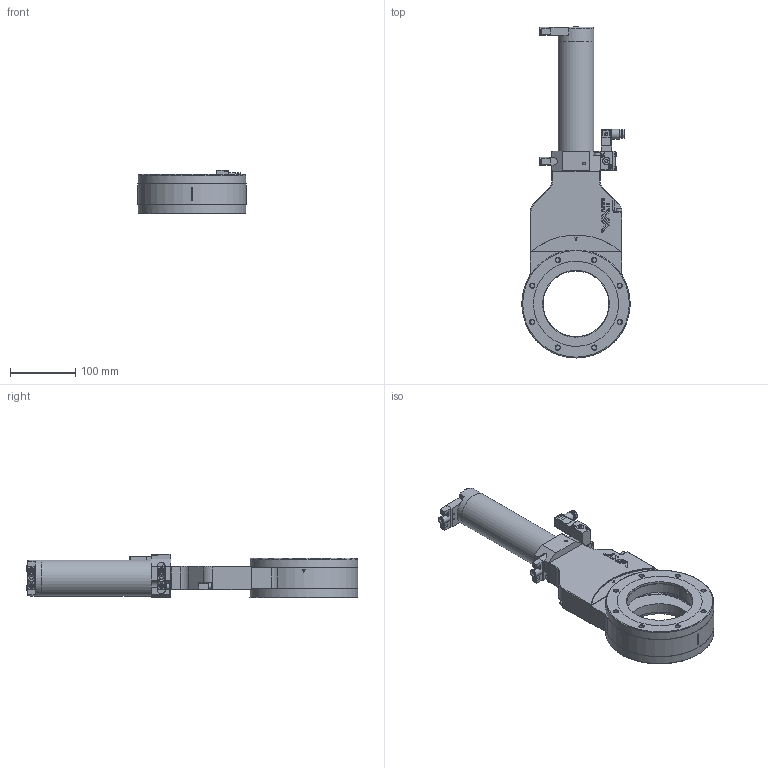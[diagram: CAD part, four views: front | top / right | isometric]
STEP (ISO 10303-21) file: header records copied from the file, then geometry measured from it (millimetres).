
FILE_DESCRIPTION(/* description */ (''),/* implementation_level */ '2;1');
FILE_NAME(/* name */ '1132663776_203.stp',/* time_stamp */ '2012-08-30T14:46:39+02:00',/* author */ (''),/* organization */ (''),/* preprocessor_version */ 'ST-DEVELOPER v11',/* originating_system */ 'SIEMENS PLM Software NX 7.5',/* authorisation */ '');
FILE_SCHEMA (('AP203_CONFIGURATION_CONTROLLED_3D_DESIGN_OF_MECHANICAL_PARTS_AND_ASSEMBLIES_MIM_LF'));
Length unit declared in the file: millimetre
Products named in the file (49): N-8406-013_3.2; N-8406-013_2.1; 467882; 437235; 73662-01.1; 202839_1.2; N-6121-039.1; N-6099-417.1; N-7557-016_1.1; N-7557-018.1; N-7557-016_2.1; N-6024-524.1; N-5018-005.1; 77379-01.1; T-9001-055.1; N-6016-478.2; 92838-01_3.2; 80477-01.1; N-7100-005_2.1; 92838-01_4.2; 80478-01.1; N-6195-007.2; 93115-01.1; 87105-01.1; N-6121-027.2; 251093.3; n-6134-407; 251289.1; 313018.1; N-6005-478.1; 236270.2; 80829-01.1; 246014.7; 245959.8; N-5100-153.1; 224795.1; N-5100-113.1; N-6005-452.1; N-6005-459.1; N-6005-466.1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
Assembly tree (70 placements, depth 5):
  254460.16
    N-6005-466.1  x2
    N-6005-459.1
    N-6005-452.1
    251092.4
      251093.3
      N-6121-027.2  x2
    N-5100-113.1  x2
    87090-R1.22_NX-ARRAGMNTunbetaetigt Hub 0mm (mit Feder)
      87105-01.1
      93115-01.1
      N-6195-007.2
      80478-01.1
      92838-01_4.2
      N-7100-005_2.1
      80477-01.1
    224795.1  x2
    87090-R1.22_NX-ARRAGMNTbetaetigt Hub 5mm max (mit Feder)
      87105-01.1
      93115-01.1
      N-6195-007.2
      80478-01.1
      N-7100-005_2.1
      80477-01.1
      92838-01_3.2
    78855-R1.9_NX-ARRAGMNTEXPLOSION  x2
      N-6016-478.2
      T-9001-055.1
      78856-R1.3
        N-6099-417.1  x2
        N-6121-039.1
        202839_1.2
        73662-01.1
        N-8406-013_1_1.4_NX-ARRAGMNTZUSAMMENST1
          N-8406-013_2.1
          202839_1.2
          N-8406-013_3.2
      77379-01.1
    N-5100-153.1
    94800-r1.7_NX-ARRAGMNTKONFIG1
      N-7557-016_3.1_MODELNX-ARRAGMNTArrangement 1
        437235
        467882
      N-5018-005.1  x2
      N-6024-524.1  x6
      N-7557-016_2.1
      N-7557-018.1
      N-7557-016_1.1
    245959.8
    246014.7
    80829-01.1
    236270.2
    N-6005-478.1
    313018.1  x2
    251289.1
    n-6134-407  x2
Bounding box: 165.6 x 507.7 x 66.3 mm (x, y, z)
Volume: 1249527.8 mm3; surface area: 326847.1 mm2
Topology: 87 solids, 87 shells, 2462 faces, 6048 edges, 3897 vertices
Faces by surface type: plane 1428, cylinder 611, cone 138, bspline 102, torus 80, extrusion 80, sphere 21, revolution 2
Full cylindrical faces by diameter (mm): 1.4 x4, 1.5 x4, 1.875 x2, 2 x5, 2.115 x8, 2.3 x2, 2.475 x6, 2.5 x8, 2.56 x2, 2.575 x2, 2.8 x1, 3 x15, 3.2 x2, 3.3 x2, 3.4 x4, 3.5 x13, 4 x2, 4.16 x6, 4.2 x17, 4.22 x1, 4.3 x2, 4.7 x4, 4.96 x1, 5 x18, 5.1 x3, 5.3 x2, 5.5 x7, 5.6 x2, 5.65 x2, 5.7 x2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
Entity records: 69644 total; most frequent: CARTESIAN_POINT 20021, ORIENTED_EDGE 8326, DIRECTION 8215, EDGE_CURVE 4163, AXIS2_PLACEMENT_3D 3003, VERTEX_POINT 2882, EDGE_LOOP 2405, VECTOR 2208
